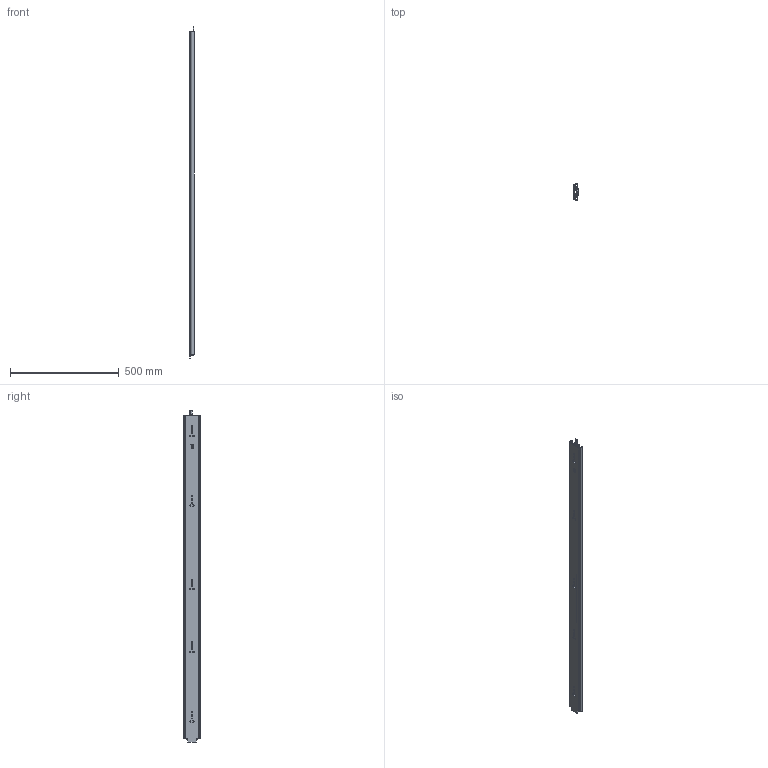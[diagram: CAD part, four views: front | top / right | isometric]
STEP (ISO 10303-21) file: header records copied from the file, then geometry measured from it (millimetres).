
FILE_DESCRIPTION (( 'STEP AP214' ), '1' );
FILE_NAME ('DSCHHD1500MML-CLOSED.STEP', '2019-11-04T10:09:40', ( '' ), ( '' ), 'SwSTEP 2.0', 'SolidWorks 2017', '' );
FILE_SCHEMA (( 'AUTOMOTIVE_DESIGN' ));
Length unit declared in the file: millimetre
Products named in the file (5): DSCHHDL-3_1500; DSCHHDL-4; DSCHHD1500MML-CLOSED; DSCHHDL-2_1500; DSCHHDL-1_1500
Assembly tree (4 placements, depth 2):
  DSCHHD1500MML-CLOSED
    DSCHHDL-3_1500
    DSCHHDL-2_1500
    DSCHHDL-1_1500
    DSCHHDL-4
Bounding box: 19.4 x 75.28 x 1526.1 mm (x, y, z)
Volume: 776772.1 mm3; surface area: 797734.1 mm2
Topology: 4 solids, 4 shells, 870 faces, 2372 edges, 1572 vertices
Faces by surface type: plane 480, bspline 237, cylinder 145, torus 4, sphere 4
Entity records: 29512 total; most frequent: CARTESIAN_POINT 8246, ORIENTED_EDGE 4736, DIRECTION 3470, EDGE_CURVE 2368, LINE 1598, VECTOR 1598, VERTEX_POINT 1572, EDGE_LOOP 1012
